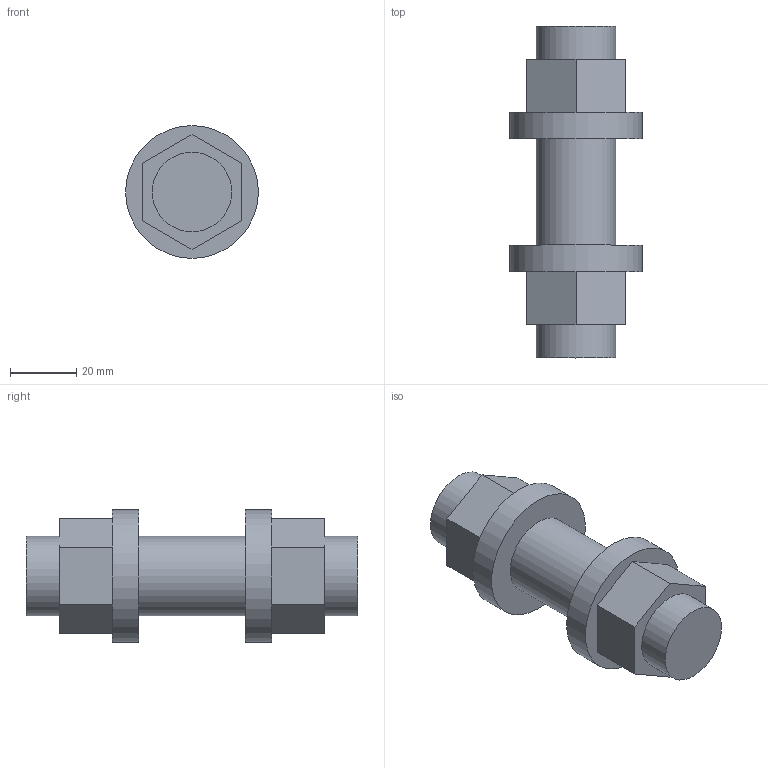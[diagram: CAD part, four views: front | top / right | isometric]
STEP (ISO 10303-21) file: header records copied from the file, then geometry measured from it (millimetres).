
FILE_DESCRIPTION(('FreeCAD Model'),'2;1');
FILE_NAME('Open CASCADE Shape Model','2023-01-17T18:28:25',(''),(''), 'Open CASCADE STEP processor 7.6','FreeCAD','Unknown');
FILE_SCHEMA(('AUTOMOTIVE_DESIGN { 1 0 10303 214 1 1 1 1 }'));
Length unit declared in the file: millimetre
Products named in the file (1): Bolt03
Bounding box: 40 x 100 x 40 mm (x, y, z)
Volume: 68572 mm3; surface area: 13378.6 mm2
Topology: 1 solids, 1 shells, 25 faces, 51 edges, 34 vertices
Faces by surface type: plane 20, cylinder 5
Full cylindrical faces by diameter (mm): 24 x3, 40 x2
Entity records: 1358 total; most frequent: CARTESIAN_POINT 249, DIRECTION 209, LINE 133, VECTOR 133, ORIENTED_EDGE 102, PCURVE 102, DEFINITIONAL_REPRESENTATION 102, EDGE_CURVE 51
